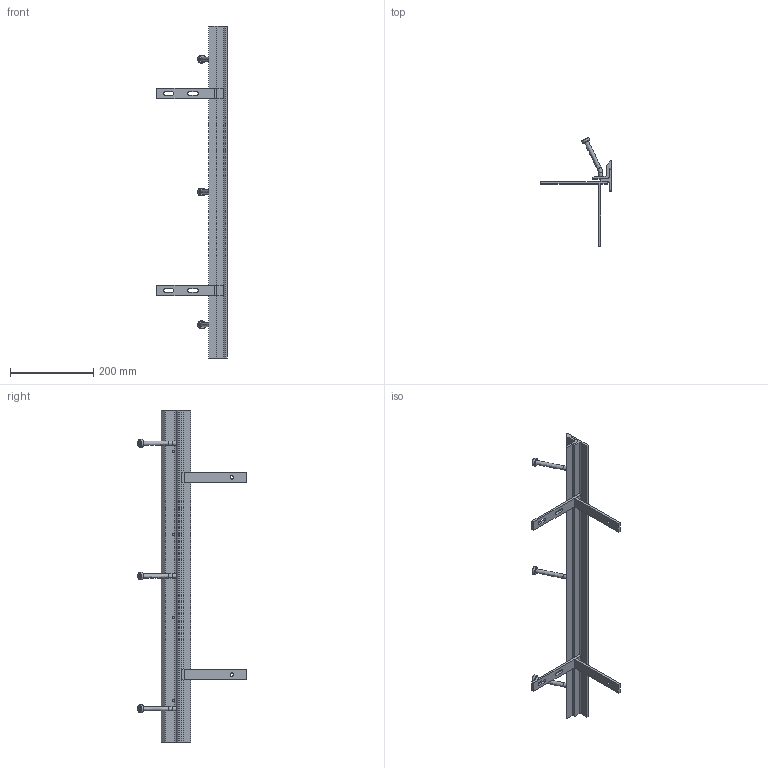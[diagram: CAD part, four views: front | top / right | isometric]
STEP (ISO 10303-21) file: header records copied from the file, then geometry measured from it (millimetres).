
FILE_DESCRIPTION(/* description */ (''),/* implementation_level */ '2;1');
FILE_NAME(/* name */ 'C:\Users\MW\Desktop\Guggenmoos\Herkules SAN\Herkules SAN\Herkules SAN.stp',/* time_stamp */ '2019-09-10T19:59:40+02:00',/* author */ ('MW'),/* organization */ (''),/* preprocessor_version */ 'ST-DEVELOPER v16.5',/* originating_system */ 'Autodesk Inventor 2017',/* authorisation */ '');
FILE_SCHEMA (('AUTOMOTIVE_DESIGN { 1 0 10303 214 3 1 1 }'));
Length unit declared in the file: millimetre
Products named in the file (6): Herkules SAN; Winkel Herkules ER; Winkel Herkules ER_1; 07175-105x12; Halterung Herkules SAN; Verankerung Herkules ER
Assembly tree (11 placements, depth 2):
  Herkules SAN
    Winkel Herkules ER
    Winkel Herkules ER_1
    07175-105x12  x4
    Halterung Herkules SAN  x2
    Verankerung Herkules ER  x3
Bounding box: 170 x 261.59 x 800 mm (x, y, z)
Volume: 804169.3 mm3; surface area: 301393 mm2
Topology: 11 solids, 11 shells, 200 faces, 456 edges, 277 vertices
Faces by surface type: plane 115, cylinder 42, cone 28, bspline 9, torus 6
Full cylindrical faces by diameter (mm): 4.2 x4, 5.5 x4, 8 x2, 19 x3
Entity records: 2837 total; most frequent: CARTESIAN_POINT 509, DIRECTION 475, ORIENTED_EDGE 402, EDGE_CURVE 201, AXIS2_PLACEMENT_3D 171, VERTEX_POINT 138, LINE 133, VECTOR 133
